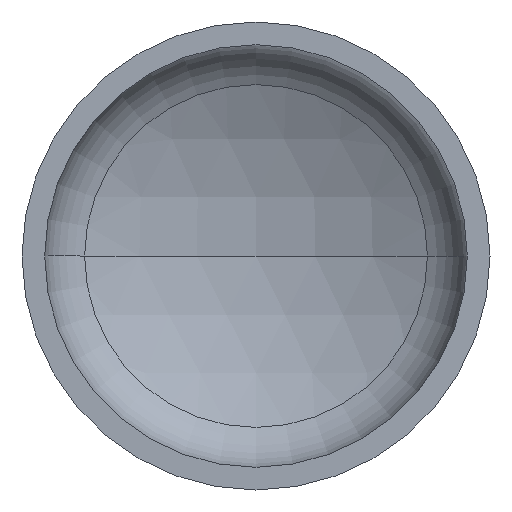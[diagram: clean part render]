
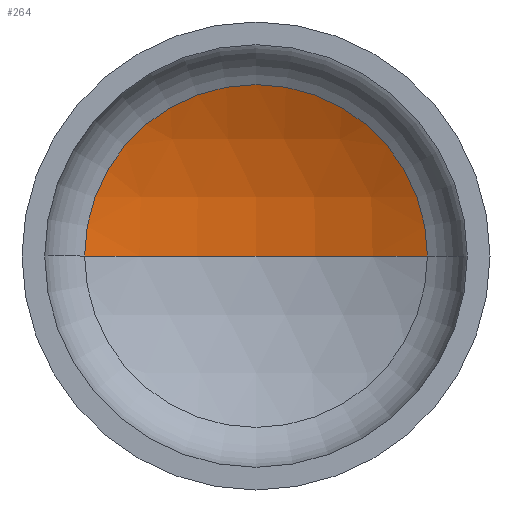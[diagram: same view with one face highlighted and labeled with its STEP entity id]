
A CAD part, front view. The second image highlights one B-rep face of the part: STEP entity #264.
In plain terms, the highlighted spherical face has radius 560 mm.
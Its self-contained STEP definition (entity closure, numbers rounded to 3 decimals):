
#13 = DIRECTION ( 'NONE',  ( 0., -1., 0. ) ) ;
#16 = EDGE_LOOP ( 'NONE', ( #116, #68, #52 ) ) ;
#21 = AXIS2_PLACEMENT_3D ( 'NONE', #299, #238, #156 ) ;
#24 = DIRECTION ( 'NONE',  ( 1., 0., 0. ) ) ;
#28 = AXIS2_PLACEMENT_3D ( 'NONE', #261, #13, #24 ) ;
#41 = VERTEX_POINT ( 'NONE', #252 ) ;
#48 = CIRCLE ( 'NONE', #28, 256.356 ) ;
#52 = ORIENTED_EDGE ( 'NONE', *, *, #337, .T. ) ;
#53 = AXIS2_PLACEMENT_3D ( 'NONE', #207, #196, #204 ) ;
#68 = ORIENTED_EDGE ( 'NONE', *, *, #347, .T. ) ;
#116 = ORIENTED_EDGE ( 'NONE', *, *, #388, .F. ) ;
#117 = FACE_OUTER_BOUND ( 'NONE', #16, .T. ) ;
#121 = VERTEX_POINT ( 'NONE', #301 ) ;
#156 = DIRECTION ( 'NONE',  ( -1., 0., 0. ) ) ;
#163 = CARTESIAN_POINT ( 'NONE',  ( 0., -290.08, 0. ) ) ;
#180 = CARTESIAN_POINT ( 'NONE',  ( 256.356, 207.797, 0. ) ) ;
#182 = AXIS2_PLACEMENT_3D ( 'NONE', #163, #333, #187 ) ;
#187 = DIRECTION ( 'NONE',  ( 1., 0., 0. ) ) ;
#196 = DIRECTION ( 'NONE',  ( 0., 0., -1. ) ) ;
#204 = DIRECTION ( 'NONE',  ( -1., 0., 0. ) ) ;
#207 = CARTESIAN_POINT ( 'NONE',  ( 0., -290.08, 0. ) ) ;
#228 = CIRCLE ( 'NONE', #182, 560. ) ;
#238 = DIRECTION ( 'NONE',  ( 0., 0., -1. ) ) ;
#246 = CIRCLE ( 'NONE', #21, 560. ) ;
#250 = VERTEX_POINT ( 'NONE', #180 ) ;
#252 = CARTESIAN_POINT ( 'NONE',  ( -256.356, 207.797, 0. ) ) ;
#261 = CARTESIAN_POINT ( 'NONE',  ( 0., 207.797, 0. ) ) ;
#264 = ADVANCED_FACE ( 'NONE', ( #117 ), #267, .F. ) ;
#267 = SPHERICAL_SURFACE ( 'NONE', #53, 560. ) ;
#299 = CARTESIAN_POINT ( 'NONE',  ( 0., -290.08, 0. ) ) ;
#301 = CARTESIAN_POINT ( 'NONE',  ( 0., 269.92, 0. ) ) ;
#333 = DIRECTION ( 'NONE',  ( 0., 0., 1. ) ) ;
#337 = EDGE_CURVE ( 'NONE', #250, #41, #48, .T. ) ;
#347 = EDGE_CURVE ( 'NONE', #121, #250, #246, .T. ) ;
#388 = EDGE_CURVE ( 'NONE', #121, #41, #228, .T. ) ;
